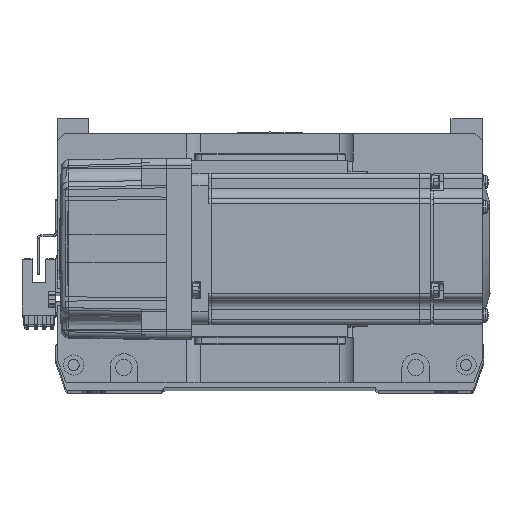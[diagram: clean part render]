
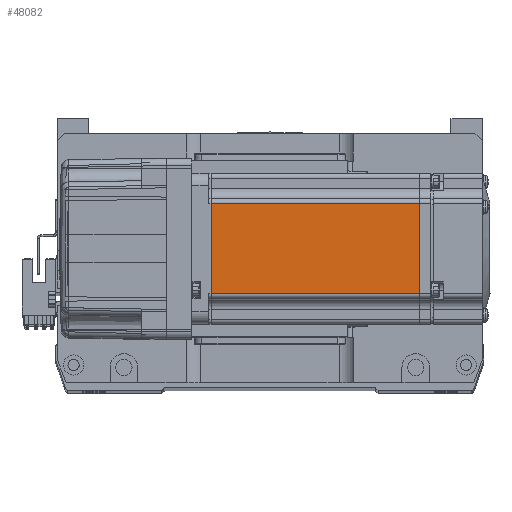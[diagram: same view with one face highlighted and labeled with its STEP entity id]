
A CAD part, top view. The second image highlights one B-rep face of the part: STEP entity #48082.
In plain terms, the highlighted planar face has unit normal (0, 0, 1) as drawn and (0, -1, 0) by its records, which use the part's own axes.
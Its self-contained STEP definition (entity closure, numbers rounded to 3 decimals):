
#1200 = DIRECTION ( 'NONE',  ( 0., 0., 1. ) ) ;
#1360 = LINE ( 'NONE', #15014, #61518 ) ;
#4885 = CARTESIAN_POINT ( 'NONE',  ( -90.45, -30., -25. ) ) ;
#9196 = LINE ( 'NONE', #49173, #15246 ) ;
#11865 = CARTESIAN_POINT ( 'NONE',  ( -6.5, -30., -18. ) ) ;
#14744 = EDGE_CURVE ( 'NONE', #58180, #43497, #43006, .T. ) ;
#15014 = CARTESIAN_POINT ( 'NONE',  ( -6.5, -30., 18. ) ) ;
#15246 = VECTOR ( 'NONE', #1200, 1000. ) ;
#15728 = LINE ( 'NONE', #11865, #51087 ) ;
#17009 = ORIENTED_EDGE ( 'NONE', *, *, #61914, .T. ) ;
#17106 = AXIS2_PLACEMENT_3D ( 'NONE', #56802, #38092, #57666 ) ;
#21304 = EDGE_LOOP ( 'NONE', ( #17009, #57569, #54179, #52618 ) ) ;
#27209 = VECTOR ( 'NONE', #33494, 1000. ) ;
#29506 = DIRECTION ( 'NONE',  ( -1., 0., 0. ) ) ;
#33494 = DIRECTION ( 'NONE',  ( 0., 0., -1. ) ) ;
#36282 = VERTEX_POINT ( 'NONE', #48946 ) ;
#38052 = EDGE_CURVE ( 'NONE', #43497, #47032, #15728, .T. ) ;
#38053 = CARTESIAN_POINT ( 'NONE',  ( -7.75, -30., -18. ) ) ;
#38092 = DIRECTION ( 'NONE',  ( 0., -1., 0. ) ) ;
#38330 = EDGE_CURVE ( 'NONE', #36282, #58180, #1360, .T. ) ;
#38622 = CARTESIAN_POINT ( 'NONE',  ( -90.45, -30., 18. ) ) ;
#40307 = FACE_OUTER_BOUND ( 'NONE', #21304, .T. ) ;
#43006 = LINE ( 'NONE', #4885, #27209 ) ;
#43497 = VERTEX_POINT ( 'NONE', #53191 ) ;
#45323 = DIRECTION ( 'NONE',  ( 1., 0., 0. ) ) ;
#47032 = VERTEX_POINT ( 'NONE', #38053 ) ;
#48082 = ADVANCED_FACE ( 'NONE', ( #40307 ), #52040, .T. ) ;
#48946 = CARTESIAN_POINT ( 'NONE',  ( -7.75, -30., 18. ) ) ;
#49173 = CARTESIAN_POINT ( 'NONE',  ( -7.75, -30., -25. ) ) ;
#51087 = VECTOR ( 'NONE', #45323, 1000. ) ;
#52040 = PLANE ( 'NONE',  #17106 ) ;
#52618 = ORIENTED_EDGE ( 'NONE', *, *, #38052, .T. ) ;
#53191 = CARTESIAN_POINT ( 'NONE',  ( -90.45, -30., -18. ) ) ;
#54179 = ORIENTED_EDGE ( 'NONE', *, *, #14744, .T. ) ;
#56802 = CARTESIAN_POINT ( 'NONE',  ( -6.5, -30., -25. ) ) ;
#57569 = ORIENTED_EDGE ( 'NONE', *, *, #38330, .T. ) ;
#57666 = DIRECTION ( 'NONE',  ( 0., 0., -1. ) ) ;
#58180 = VERTEX_POINT ( 'NONE', #38622 ) ;
#61518 = VECTOR ( 'NONE', #29506, 1000. ) ;
#61914 = EDGE_CURVE ( 'NONE', #47032, #36282, #9196, .T. ) ;
